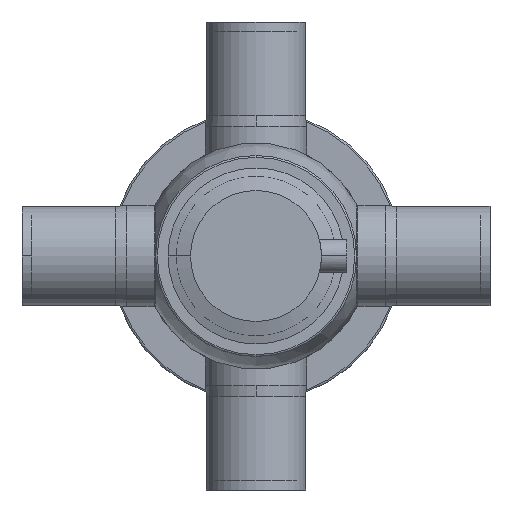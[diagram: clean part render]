
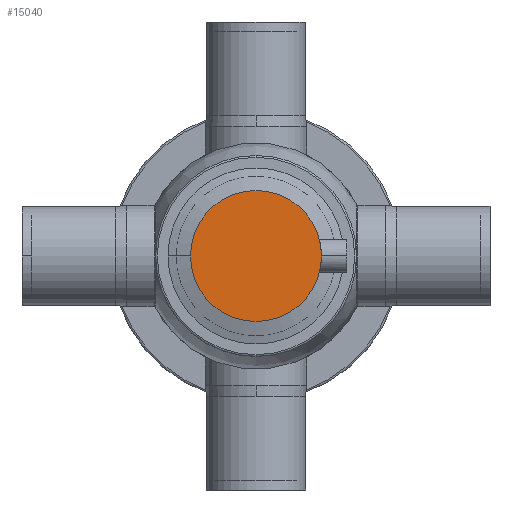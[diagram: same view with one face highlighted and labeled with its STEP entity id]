
A CAD part, front view. The second image highlights one B-rep face of the part: STEP entity #15040.
In plain terms, the highlighted planar face has unit normal (0, -1, 0).
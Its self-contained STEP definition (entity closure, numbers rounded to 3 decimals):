
#9530=CARTESIAN_POINT('',(-35.,-92.85,0.));
#9540=VERTEX_POINT('',#9530);
#9570=CARTESIAN_POINT('',(0.,-92.85,0.));
#9580=DIRECTION('',(0.,-1.,0.));
#9590=DIRECTION('',(-1.,0.,0.));
#9600=AXIS2_PLACEMENT_3D('',#9570,#9580,#9590);
#9610=CIRCLE('',#9600,35.);
#9620=CARTESIAN_POINT('',(35.,-92.85,0.));
#9630=VERTEX_POINT('',#9620);
#9640=EDGE_CURVE('',#9540,#9630,#9610,.T.);
#14940=CARTESIAN_POINT('',(0.,-92.85,0.));
#14950=DIRECTION('',(0.,-1.,0.));
#14960=DIRECTION('',(-1.,0.,0.));
#14970=AXIS2_PLACEMENT_3D('',#14940,#14950,#14960);
#14980=PLANE('',#14970);
#14990=ORIENTED_EDGE('',*,*,#9640,.T.);
#15000=EDGE_CURVE('',#9630,#9540,#9610,.T.);
#15010=ORIENTED_EDGE('',*,*,#15000,.T.);
#15020=EDGE_LOOP('',(#15010,#14990));
#15030=FACE_OUTER_BOUND('',#15020,.T.);
#15040=ADVANCED_FACE('',(#15030),#14980,.T.);
